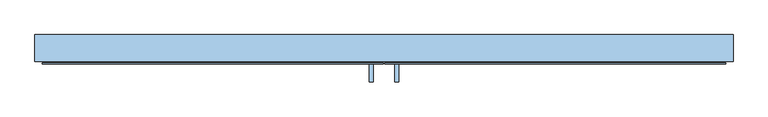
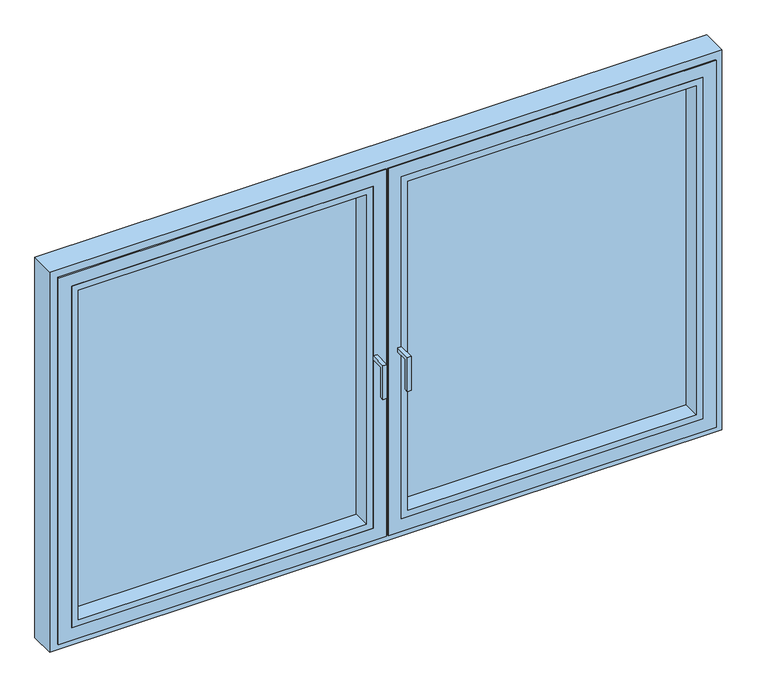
"""IFC4 building model written with IfcOpenShell, lengths in millimetres: window geometry, Reynaers_MasterLine 10_Window_Inward Opening_Double Vent : Reynaers_MasterLine 10_Window_Inward Opening_Double Vent."""

import ifcopenshell
import ifcopenshell.guid

model = None  # the IFC model being written
_history = None  # IfcOwnerHistory: only IFC2X3 demands one
_inside = {}  # id of a spatial element -> (the spatial element, [elements in it])
_under = {}  # id of a project, library or spatial element -> (it, [spatial elements below it])
_declared = {}  # id of a project -> (the project, [libraries it declares])
_typed = {}  # id of a type object -> (the type object, [elements of that type])
_made_of = {}  # id of a material, layer set ... -> (it, [elements and type objects made of it])


def new_model(schema):
    """Start an empty IFC model of exactly this schema.

    Asked for "IFC4X3", IfcOpenShell would pick the latest addendum, in which some entities
    have other attributes; the version numbers below select the first issue.
    IFC2X3 requires an IfcOwnerHistory on every rooted entity: one is made here for all.
    """
    global model, _history
    if schema == "IFC4X3":
        model = ifcopenshell.file(schema_version=(4, 3, 0, 0))
    else:
        model = ifcopenshell.file(schema=schema)
    _inside.clear()
    _under.clear()
    _declared.clear()
    _typed.clear()
    _made_of.clear()
    _history = None
    if model.schema == "IFC2X3":
        org = make("IfcOrganization", Name="unknown")
        user = make(
            "IfcPersonAndOrganization",
            ThePerson=make("IfcPerson", FamilyName="unknown"),
            TheOrganization=org,
        )
        app = make(
            "IfcApplication",
            ApplicationDeveloper=org,
            Version="unknown",
            ApplicationFullName="unknown",
            ApplicationIdentifier="unknown",
        )
        _history = make(
            "IfcOwnerHistory",
            OwningUser=user,
            OwningApplication=app,
            ChangeAction="ADDED",
            CreationDate=0,
        )
    return model


def make(cls, **values):
    """One entity of the class cls with the attributes given. An attribute that is None is left unset."""
    return model.create_entity(
        cls, **{name: value for name, value in values.items() if value is not None}
    )


def rooted(cls, **values):
    """An entity with a GlobalId (a new one), such as an element, a storey or a relation."""
    return make(cls, GlobalId=ifcopenshell.guid.new(), OwnerHistory=_history, **values)


def si_unit(unit_type, name, prefix=None):
    """IfcSIUnit, for example si_unit("LENGTHUNIT", "METRE", prefix="MILLI")."""
    return make("IfcSIUnit", UnitType=unit_type, Prefix=prefix, Name=name)


def assignment(units):
    """IfcUnitAssignment: the units of a project."""
    return None if units is None else make("IfcUnitAssignment", Units=units)


def point(xyz):
    """IfcCartesianPoint."""
    return None if xyz is None else make("IfcCartesianPoint", Coordinates=xyz)


def direction(xyz):
    """IfcDirection."""
    return None if xyz is None else make("IfcDirection", DirectionRatios=xyz)


def frame(location, z_axis=None, x_axis=None):
    """IfcAxis2Placement3D, a coordinate frame: its origin and axes. An axis left out is left unset."""
    return make(
        "IfcAxis2Placement3D",
        Location=point(location),
        Axis=direction(z_axis),
        RefDirection=direction(x_axis),
    )


def origin():
    """The frame at (0, 0, 0) with its axes left unset."""
    return frame((0.0, 0.0, 0.0))


def place(relative_to, where):
    """IfcLocalPlacement: puts the frame where relative to a parent placement (None: the world)."""
    return make(
        "IfcLocalPlacement", PlacementRelTo=relative_to, RelativePlacement=where
    )


def context(
    kind, dimensions, precision=None, world=None, true_north=None, identifier=None
):
    """IfcGeometricRepresentationContext, for example the 3D "Model" context."""
    return make(
        "IfcGeometricRepresentationContext",
        ContextIdentifier=identifier,
        ContextType=kind,
        CoordinateSpaceDimension=dimensions,
        Precision=precision,
        WorldCoordinateSystem=world,
        TrueNorth=true_north,
    )


def project(units=None, contexts=None):
    """IfcProject with its units and contexts."""
    return rooted(
        "IfcProject",
        Name="project",
        RepresentationContexts=contexts,
        UnitsInContext=assignment(units),
    )


def spatial(cls, under=None, at=None, **own):
    """A site, building, storey or space (cls), placed at a placement, below another one or the project."""
    s = rooted(cls, ObjectPlacement=at, **own)
    if under is not None:
        _under.setdefault(under.id(), (under, []))[1].append(s)
    return s


def polyline(points):
    """IfcPolyline through the points."""
    return make("IfcPolyline", Points=[point(p) for p in points])


def outline(outer, holes=None, kind="AREA"):
    """IfcArbitraryClosedProfileDef: a profile drawn as a closed curve; with holes, ...WithVoids."""
    if holes is None:
        return make("IfcArbitraryClosedProfileDef", ProfileType=kind, OuterCurve=outer)
    return make(
        "IfcArbitraryProfileDefWithVoids",
        ProfileType=kind,
        OuterCurve=outer,
        InnerCurves=holes,
    )


def extrude(swept, where, along, depth):
    """IfcExtrudedAreaSolid: the profile swept, set in the frame where, extruded along a direction by depth."""
    return make(
        "IfcExtrudedAreaSolid",
        SweptArea=swept,
        Position=where,
        ExtrudedDirection=direction(along),
        Depth=depth,
    )


def faces_of(points, faces, orient=None, outer=None):
    """IfcFace entities. A face is a list of loops; a loop is a list of indices into points, from 0.

    orient and outer hold one flag for each loop. By default every Orientation is true, the
    first loop of a face is its IfcFaceOuterBound and the others are IfcFaceBound.
    """
    made = []
    for i, loops in enumerate(faces):
        bounds = []
        for j, loop in enumerate(loops):
            is_outer = j == 0 if outer is None else outer[i][j]
            bounds.append(
                make(
                    "IfcFaceOuterBound" if is_outer else "IfcFaceBound",
                    Bound=make("IfcPolyLoop", Polygon=[points[k] for k in loop]),
                    Orientation=True if orient is None else orient[i][j],
                )
            )
        made.append(make("IfcFace", Bounds=bounds))
    return made


def faceted_brep(points, faces, orient=None, outer=None, voids=None):
    """IfcFacetedBrep: a solid bounded by flat faces; with voids (closed shells), ...WithVoids."""
    shared = [point(p) for p in points]
    hull = make("IfcClosedShell", CfsFaces=faces_of(shared, faces, orient, outer))
    if voids is None:
        return make("IfcFacetedBrep", Outer=hull)
    return make(
        "IfcFacetedBrepWithVoids",
        Outer=hull,
        Voids=[
            make(cls, CfsFaces=faces_of(shared, fs, o, b)) for cls, fs, o, b in voids
        ],
    )


def shape(context_of_items, identifier, shape_type, items):
    """IfcShapeRepresentation: the items that make up one representation, for example the "Body"."""
    return make(
        "IfcShapeRepresentation",
        ContextOfItems=context_of_items,
        RepresentationIdentifier=identifier,
        RepresentationType=shape_type,
        Items=items,
    )


def source(mapping_origin, context_of_items, identifier, shape_type, items):
    """IfcRepresentationMap: a shape defined once, which mapped items show again and again."""
    return make(
        "IfcRepresentationMap",
        MappingOrigin=mapping_origin,
        MappedRepresentation=shape(context_of_items, identifier, shape_type, items),
    )


def transform(
    local_origin,
    x_axis=None,
    y_axis=None,
    z_axis=None,
    scale=None,
    scale2=None,
    scale3=None,
    uniform=True,
):
    """IfcCartesianTransformationOperator3D, or its non-uniform kind. x_axis, y_axis, z_axis: its Axis1, 2, 3."""
    if uniform:
        return make(
            "IfcCartesianTransformationOperator3D",
            Axis1=direction(x_axis),
            Axis2=direction(y_axis),
            LocalOrigin=point(local_origin),
            Scale=scale,
            Axis3=direction(z_axis),
        )
    return make(
        "IfcCartesianTransformationOperator3DnonUniform",
        Axis1=direction(x_axis),
        Axis2=direction(y_axis),
        LocalOrigin=point(local_origin),
        Scale=scale,
        Axis3=direction(z_axis),
        Scale2=scale2,
        Scale3=scale3,
    )


def mapped(mapping_source, mapping_target):
    """IfcMappedItem: shows the shape of a source again, moved by a transform."""
    return make(
        "IfcMappedItem", MappingSource=mapping_source, MappingTarget=mapping_target
    )


def made_of(thing, what):
    """Note that an element or type object is made of a material, layer set ...; save() writes the relation."""
    if what is not None:
        _made_of.setdefault(what.id(), (what, []))[1].append(thing)
    return thing


def element(
    cls,
    number,
    at=None,
    inside=None,
    cuts=None,
    type_object=None,
    material=None,
    context=None,
    identifier="Body",
    shape_type=None,
    held_by="IfcProductDefinitionShape",
    body=None,
    shapes=None,
    **own,
):
    """One element of the class cls, such as IfcWall. Its Tag is "e" and its number.

    at: its placement. inside: the storey or other place that contains it. cuts: it is an
    opening in that element (IfcRelVoidsElement). A single representation is given by context,
    identifier, shape_type and body (its items); several are given by shapes. held_by: the class
    of the entity that holds the representations. save() writes the other relations.
    """
    e = rooted(cls, Tag="e%d" % number, ObjectPlacement=at, **own)
    if body is not None:
        shapes = [shape(context, identifier, shape_type, body)]
    if shapes is not None:
        e.Representation = make(held_by, Representations=shapes)
    if inside is not None:
        _inside.setdefault(inside.id(), (inside, []))[1].append(e)
    if cuts is not None:
        rooted(
            "IfcRelVoidsElement", RelatingBuildingElement=cuts, RelatedOpeningElement=e
        )
    if type_object is not None:
        _typed.setdefault(type_object.id(), (type_object, []))[1].append(e)
    return made_of(e, material)


def aggregate(whole, parts):
    """IfcRelAggregates: a whole, such as a stair, and the parts it consists of."""
    return rooted("IfcRelAggregates", RelatingObject=whole, RelatedObjects=parts)


def save(model, path):
    """Write the relations noted so far, then the file.

    IfcRelAggregates (storeys below a building ...), IfcRelContainedInSpatialStructure (elements
    in a storey), IfcRelDefinesByType, IfcRelAssociatesMaterial and IfcRelDeclares: one each for
    every whole, place, type object, material and project.
    """
    for whole, parts in _under.values():
        aggregate(whole, parts)
    for where, things in _inside.values():
        rooted(
            "IfcRelContainedInSpatialStructure",
            RelatedElements=things,
            RelatingStructure=where,
        )
    for kind, things in _typed.values():
        rooted("IfcRelDefinesByType", RelatedObjects=things, RelatingType=kind)
    for what, things in _made_of.values():
        rooted("IfcRelAssociatesMaterial", RelatedObjects=things, RelatingMaterial=what)
    for by, libraries in _declared.values():
        rooted("IfcRelDeclares", RelatingContext=by, RelatedDefinitions=libraries)
    model.write(path)


def window_c8762d69(model_context):
    return source(origin(), model_context, "Body", "SolidModel", [
        extrude(outline(polyline([(-102.0, 1550.0), (-152.0, 1550.0), (-152.0, 1430.0), (-167.0, 1430.0), (-167.0, 1565.0), (-102.0, 1565.0), (-102.0, 1550.0)])), frame((38.5, 0.0, 0.0), z_axis=(1.0, 0.0, 0.0), x_axis=(0.0, 1.0, 0.0)), (0.0, 0.0, 1.0), 15.0),
        extrude(outline(polyline([(-102.0, 1565.0), (-102.0, 1550.0), (-152.0, 1550.0), (-152.0, 1430.0), (-167.0, 1430.0), (-167.0, 1565.0), (-102.0, 1565.0)])), frame((-53.5, 0.0, 0.0), z_axis=(1.0, 0.0, 0.0), x_axis=(0.0, 1.0, 0.0)), (0.0, 0.0, 1.0), 15.0),
        extrude(outline(polyline([(-36.5, 5.0), (36.5000018, 5.0), (36.5000018, 0.2), (9.5000018, 0.2), (9.5000018, -98.0), (-11.7999982, -98.0), (-11.7999982, 0.2), (-36.5, 0.2), (-36.5, 5.0)])), frame((0.0, 0.0, 860.0000019), z_axis=(0.0, 0.0, 1.0), x_axis=(1.0, 0.0, 0.0)), (0.0, 0.0, 1.0), 1399.9999981),
        extrude(outline(polyline([(2243.0, 53.5), (877.0, 53.5), (877.0, 1193.0), (2243.0, 1193.0), (2243.0, 53.5)]), holes=[polyline([(2218.0, 1168.0), (902.0, 1168.0), (902.0, 78.5), (2218.0, 78.5), (2218.0, 1168.0)])]), frame((0.0, -102.0, 0.0), z_axis=(0.0, 1.0, 0.0), x_axis=(0.0, 0.0, 1.0)), (0.0, 0.0, 1.0), 66.0),
        faceted_brep([(43.5, 5.0, 867.0), (43.5, -5.0, 867.0), (43.5, -5.0, 2253.0), (43.5, 5.0, 2253.0), (80.5, -3.0, 904.0), (80.5, 5.0, 904.0), (80.5, 5.0, 2216.0), (80.5, -3.0, 2216.0), (1203.0, -5.0, 2253.0), (1203.0, 5.0, 2253.0), (1166.0, 5.0, 2216.0), (1166.0, -3.0, 2216.0), (1203.0, -5.0, 867.0), (1203.0, 5.0, 867.0), (1166.0, 5.0, 904.0), (1166.0, -3.0, 904.0), (3.5, -102.0, 827.0), (1243.0, -102.0, 827.0), (1243.0, -102.0, 2293.0), (3.5, -102.0, 2293.0), (53.5, -102.0, 2243.0), (1193.0, -102.0, 2243.0), (1193.0, -102.0, 877.0), (53.5, -102.0, 877.0), (53.5, -3.0, 2243.0), (1193.0, -3.0, 2243.0), (1193.0, -3.0, 877.0), (53.5, -3.0, 877.0), (21.5, -5.0, 2275.0), (21.5, -98.0, 2275.0), (1225.0, -98.0, 2275.0), (1225.0, -5.0, 2275.0), (3.5, -98.0, 2293.0), (1243.0, -98.0, 2293.0), (1225.0, -98.0, 845.0), (1225.0, -5.0, 845.0), (1243.0, -98.0, 827.0), (21.5, -98.0, 845.0), (21.5, -5.0, 845.0), (3.5, -98.0, 827.0)], [[[0, 1, 2, 3]], [[4, 5, 6, 7]], [[3, 2, 8, 9]], [[7, 6, 10, 11]], [[9, 8, 12, 13]], [[11, 10, 14, 15]], [[3, 9, 13, 0], [5, 14, 10, 6]], [[13, 12, 1, 0]], [[16, 17, 18, 19], [20, 21, 22, 23]], [[15, 14, 5, 4]], [[20, 24, 25, 21]], [[21, 25, 26, 22]], [[22, 26, 27, 23]], [[23, 27, 24, 20]], [[24, 27, 26, 25], [11, 15, 4, 7]], [[28, 29, 30, 31]], [[32, 19, 18, 33]], [[31, 30, 34, 35]], [[33, 18, 17, 36]], [[35, 34, 37, 38]], [[36, 17, 16, 39]], [[31, 35, 38, 28], [2, 1, 12, 8]], [[38, 37, 29, 28]], [[33, 36, 39, 32], [29, 37, 34, 30]], [[39, 16, 19, 32]]]),
        extrude(outline(polyline([(2243.0, -1193.0), (877.0, -1193.0), (877.0, -53.5), (2243.0, -53.5), (2243.0, -1193.0)]), holes=[polyline([(2218.0, -78.5), (902.0, -78.5), (902.0, -1168.0), (2218.0, -1168.0), (2218.0, -78.5)])]), frame((0.0, -102.0, 0.0), z_axis=(0.0, 1.0, 0.0), x_axis=(0.0, 0.0, 1.0)), (0.0, 0.0, 1.0), 66.0),
        faceted_brep([(1269.9999981, -92.0, 800.0000019), (1269.9999981, 5.0, 800.0000019), (1269.9999981, 5.0, 2319.9999981), (1269.9999981, -92.0, 2319.9999981), (1209.9999981, 5.0, 860.0000019), (1209.9999981, 1.0, 860.0000019), (1209.9999981, 1.0, 2259.9999981), (1209.9999981, 5.0, 2259.9999981), (-1270.0, 5.0, 2319.9999981), (-1270.0, -92.0, 2319.9999981), (-1210.0, 1.0, 2259.9999981), (-1210.0, 5.0, 2259.9999981), (-1270.0, 5.0, 800.0000019), (-1270.0, -92.0, 800.0000019), (-1210.0, 1.0, 860.0000019), (-1210.0, 5.0, 860.0000019), (1236.9999981, -92.0, 833.0000019), (-1237.0, -92.0, 833.0000019), (-1237.0, -92.0, 2286.9999981), (1236.9999981, -92.0, 2286.9999981), (1236.9999981, 1.0, 2286.9999981), (-1237.0, 1.0, 2286.9999981), (-1237.0, 1.0, 833.0000019), (1236.9999981, 1.0, 833.0000019)], [[[0, 1, 2, 3]], [[4, 5, 6, 7]], [[3, 2, 8, 9]], [[7, 6, 10, 11]], [[9, 8, 12, 13]], [[11, 10, 14, 15]], [[1, 12, 8, 2], [7, 11, 15, 4]], [[13, 12, 1, 0]], [[3, 9, 13, 0], [16, 17, 18, 19]], [[15, 14, 5, 4]], [[20, 19, 18, 21]], [[21, 18, 17, 22]], [[22, 17, 16, 23]], [[23, 16, 19, 20]], [[21, 22, 23, 20], [6, 5, 14, 10]]]),
        faceted_brep([(-43.5, -5.0, 867.0), (-43.5, 5.0, 867.0), (-43.5, 5.0, 2253.0), (-43.5, -5.0, 2253.0), (-80.5, 5.0, 904.0), (-80.5, -3.0, 904.0), (-80.5, -3.0, 2216.0), (-80.5, 5.0, 2216.0), (-1203.0, 5.0, 2253.0), (-1203.0, -5.0, 2253.0), (-1166.0, -3.0, 2216.0), (-1166.0, 5.0, 2216.0), (-1203.0, 5.0, 867.0), (-1203.0, -5.0, 867.0), (-1166.0, -3.0, 904.0), (-1166.0, 5.0, 904.0), (-3.4999982, -102.0, 2293.0000018), (-1243.0000018, -102.0, 2293.0000018), (-1243.0000018, -102.0, 826.9999982), (-3.4999982, -102.0, 826.9999982), (-53.4999982, -102.0, 876.9999982), (-1193.0000018, -102.0, 876.9999982), (-1193.0000018, -102.0, 2243.0000018), (-53.4999982, -102.0, 2243.0000018), (-53.4999982, -3.0, 2243.0000018), (-1193.0000018, -3.0, 2243.0000018), (-1193.0000018, -3.0, 876.9999982), (-53.4999982, -3.0, 876.9999982), (-21.4999982, -98.0, 2275.0000018), (-21.4999982, -5.0, 2275.0000018), (-1225.0000018, -5.0, 2275.0000018), (-1225.0000018, -98.0, 2275.0000018), (-3.4999982, -98.0, 2293.0000018), (-1243.0000018, -98.0, 2293.0000018), (-1225.0000018, -5.0, 844.9999982), (-1225.0000018, -98.0, 844.9999982), (-1243.0000018, -98.0, 826.9999982), (-21.4999982, -5.0, 844.9999982), (-21.4999982, -98.0, 844.9999982), (-3.4999982, -98.0, 826.9999982)], [[[0, 1, 2, 3]], [[4, 5, 6, 7]], [[3, 2, 8, 9]], [[7, 6, 10, 11]], [[9, 8, 12, 13]], [[11, 10, 14, 15]], [[1, 12, 8, 2], [7, 11, 15, 4]], [[13, 12, 1, 0]], [[16, 17, 18, 19], [20, 21, 22, 23]], [[15, 14, 5, 4]], [[24, 23, 22, 25]], [[25, 22, 21, 26]], [[26, 21, 20, 27]], [[27, 20, 23, 24]], [[25, 26, 27, 24], [6, 5, 14, 10]], [[28, 29, 30, 31]], [[16, 32, 33, 17]], [[31, 30, 34, 35]], [[17, 33, 36, 18]], [[35, 34, 37, 38]], [[18, 36, 39, 19]], [[29, 37, 34, 30], [9, 13, 0, 3]], [[38, 37, 29, 28]], [[32, 39, 36, 33], [31, 35, 38, 28]], [[19, 39, 32, 16]]]),
        extrude(outline(polyline([(1185.0, -30.0), (61.5, -30.0), (61.5, -3.0), (1185.0, -3.0), (1185.0, -30.0)])), frame((0.0, 0.0, 885.0), z_axis=(0.0, 0.0, 1.0), x_axis=(1.0, 0.0, 0.0)), (0.0, 0.0, 1.0), 1350.0),
        extrude(outline(polyline([(-61.5, -30.0), (-1185.0, -30.0), (-1185.0, -3.0), (-61.5, -3.0), (-61.5, -30.0)])), frame((0.0, 0.0, 885.0), z_axis=(0.0, 0.0, 1.0), x_axis=(1.0, 0.0, 0.0)), (0.0, 0.0, 1.0), 1350.0),
    ])


if __name__ == "__main__":
    model = new_model("IFC4")
    model_context = context("Model", 3, world=origin())
    ifc_project = project(units=[si_unit("LENGTHUNIT", "METRE", prefix="MILLI")], contexts=[model_context])
    site = spatial("IfcSite", under=ifc_project)
    building = spatial("IfcBuilding", under=site)
    placement = place(None, origin())
    window_shape = window_c8762d69(model_context)
    element("IfcWindow", 1, ObjectType="Reynaers_MasterLine 10_Window_Inward Opening_Double Vent : Reynaers_MasterLine 10_Window_Inward Opening_Double Vent", at=placement, inside=building, context=model_context, shape_type="MappedRepresentation", body=[
        mapped(window_shape, transform((0.0, 0.0, 0.0), x_axis=(1.0, 0.0, 0.0), y_axis=(0.0, 1.0, 0.0), z_axis=(0.0, 0.0, 1.0))),
    ])
    save(model, "model.ifc")
